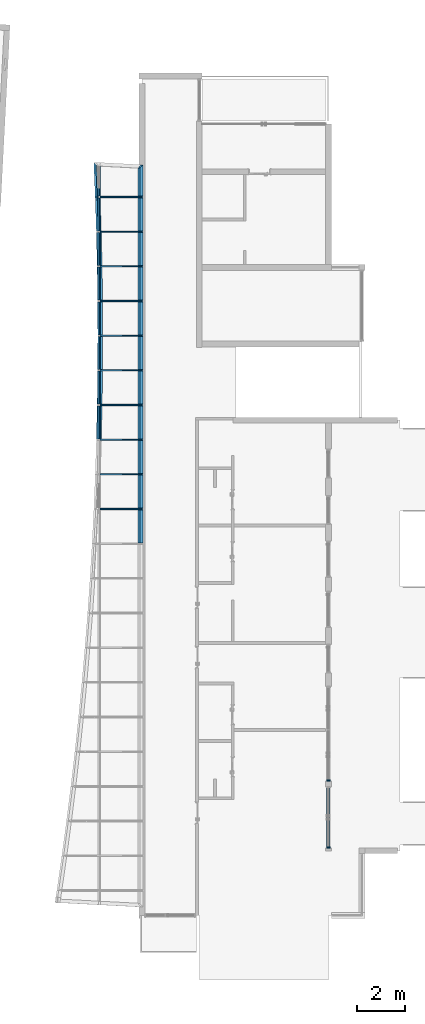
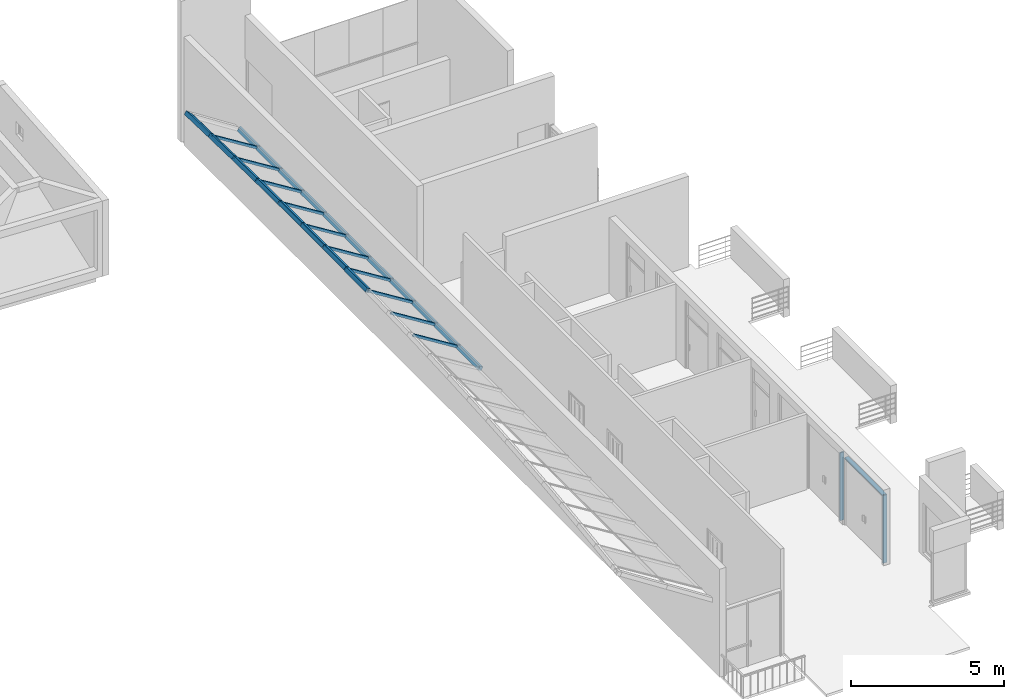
# One storey, part 5 of 33: 40 members, 3 elements without a shape of their own.
"""IFC2X3 building model written with IfcOpenShell, lengths in millimetres."""

import ifcopenshell
import ifcopenshell.guid

model = None  # the IFC model being written
_history = None  # IfcOwnerHistory: only IFC2X3 demands one
_inside = {}  # id of a spatial element -> (the spatial element, [elements in it])
_under = {}  # id of a project, library or spatial element -> (it, [spatial elements below it])
_declared = {}  # id of a project -> (the project, [libraries it declares])
_typed = {}  # id of a type object -> (the type object, [elements of that type])
_made_of = {}  # id of a material, layer set ... -> (it, [elements and type objects made of it])


def new_model(schema):
    """Start an empty IFC model of exactly this schema.

    Asked for "IFC4X3", IfcOpenShell would pick the latest addendum, in which some entities
    have other attributes; the version numbers below select the first issue.
    IFC2X3 requires an IfcOwnerHistory on every rooted entity: one is made here for all.
    """
    global model, _history
    if schema == "IFC4X3":
        model = ifcopenshell.file(schema_version=(4, 3, 0, 0))
    else:
        model = ifcopenshell.file(schema=schema)
    _inside.clear()
    _under.clear()
    _declared.clear()
    _typed.clear()
    _made_of.clear()
    _history = None
    if model.schema == "IFC2X3":
        org = make("IfcOrganization", Name="unknown")
        user = make(
            "IfcPersonAndOrganization",
            ThePerson=make("IfcPerson", FamilyName="unknown"),
            TheOrganization=org,
        )
        app = make(
            "IfcApplication",
            ApplicationDeveloper=org,
            Version="unknown",
            ApplicationFullName="unknown",
            ApplicationIdentifier="unknown",
        )
        _history = make(
            "IfcOwnerHistory",
            OwningUser=user,
            OwningApplication=app,
            ChangeAction="ADDED",
            CreationDate=0,
        )
    return model


def make(cls, **values):
    """One entity of the class cls with the attributes given. An attribute that is None is left unset."""
    return model.create_entity(
        cls, **{name: value for name, value in values.items() if value is not None}
    )


def entity(cls, *values):
    """Any entity or typed value of the class cls, its attributes in the order of the schema. None: left unset."""
    e = model.create_entity(cls)
    for i, value in enumerate(values):
        if value is not None:
            e[i] = value
    return e


def rooted(cls, **values):
    """An entity with a GlobalId (a new one), such as an element, a storey or a relation."""
    return make(cls, GlobalId=ifcopenshell.guid.new(), OwnerHistory=_history, **values)


def si_unit(unit_type, name, prefix=None):
    """IfcSIUnit, for example si_unit("LENGTHUNIT", "METRE", prefix="MILLI")."""
    return make("IfcSIUnit", UnitType=unit_type, Prefix=prefix, Name=name)


def converted_unit(unit_type, name, factor, base, dimensions=None, offset=None):
    """IfcConversionBasedUnit, such as the inch: factor (a typed value) times the base unit."""
    return make(
        "IfcConversionBasedUnit"
        if offset is None
        else "IfcConversionBasedUnitWithOffset",
        ConversionOffset=offset,
        Dimensions=None
        if dimensions is None
        else entity("IfcDimensionalExponents", *dimensions),
        UnitType=unit_type,
        Name=name,
        ConversionFactor=make(
            "IfcMeasureWithUnit", ValueComponent=factor, UnitComponent=base
        ),
    )


def derived_unit(unit_type, elements):
    """IfcDerivedUnit: a product of units, each with its exponent."""
    return make(
        "IfcDerivedUnit",
        Elements=[
            make("IfcDerivedUnitElement", Unit=unit, Exponent=power)
            for unit, power in elements
        ],
        UnitType=unit_type,
    )


def assignment(units):
    """IfcUnitAssignment: the units of a project."""
    return None if units is None else make("IfcUnitAssignment", Units=units)


def point(xyz):
    """IfcCartesianPoint."""
    return None if xyz is None else make("IfcCartesianPoint", Coordinates=xyz)


def direction(xyz):
    """IfcDirection."""
    return None if xyz is None else make("IfcDirection", DirectionRatios=xyz)


def frame(location, z_axis=None, x_axis=None):
    """IfcAxis2Placement3D, a coordinate frame: its origin and axes. An axis left out is left unset."""
    return make(
        "IfcAxis2Placement3D",
        Location=point(location),
        Axis=direction(z_axis),
        RefDirection=direction(x_axis),
    )


def frame_2d(location, x_axis=None):
    """IfcAxis2Placement2D, a coordinate frame in the plane: its origin and x axis."""
    return make(
        "IfcAxis2Placement2D", Location=point(location), RefDirection=direction(x_axis)
    )


def origin():
    """The frame at (0, 0, 0) with its axes left unset."""
    return frame((0.0, 0.0, 0.0))


def origin_2d_with_axis():
    """The frame at (0, 0) in the plane with the x axis (1, 0) written out."""
    return frame_2d((0.0, 0.0), x_axis=(1.0, 0.0))


def place(relative_to, where):
    """IfcLocalPlacement: puts the frame where relative to a parent placement (None: the world)."""
    return make(
        "IfcLocalPlacement", PlacementRelTo=relative_to, RelativePlacement=where
    )


def context(
    kind, dimensions, precision=None, world=None, true_north=None, identifier=None
):
    """IfcGeometricRepresentationContext, for example the 3D "Model" context."""
    return make(
        "IfcGeometricRepresentationContext",
        ContextIdentifier=identifier,
        ContextType=kind,
        CoordinateSpaceDimension=dimensions,
        Precision=precision,
        WorldCoordinateSystem=world,
        TrueNorth=true_north,
    )


def subcontext(parent, identifier, kind, view, scale=None):
    """IfcGeometricRepresentationSubContext, for example "Body" below "Model"."""
    return make(
        "IfcGeometricRepresentationSubContext",
        ContextIdentifier=identifier,
        ContextType=kind,
        ParentContext=parent,
        TargetScale=scale,
        TargetView=view,
    )


def project(units=None, contexts=None):
    """IfcProject with its units and contexts."""
    return rooted(
        "IfcProject",
        Name="project",
        RepresentationContexts=contexts,
        UnitsInContext=assignment(units),
    )


def spatial(cls, under=None, at=None, **own):
    """A site, building, storey or space (cls), placed at a placement, below another one or the project."""
    s = rooted(cls, ObjectPlacement=at, **own)
    if under is not None:
        _under.setdefault(under.id(), (under, []))[1].append(s)
    return s


def polyline(points):
    """IfcPolyline through the points."""
    return make("IfcPolyline", Points=[point(p) for p in points])


def profile(cls, at=None, kind="AREA", **sizes):
    """A parametric profile (cls). Its sizes go by their IFC names, for example OverallWidth=200.0."""
    return make(cls, ProfileType=kind, Position=at, **sizes)


def rectangle(**sizes):
    """IfcRectangleProfileDef."""
    return profile("IfcRectangleProfileDef", **sizes)


def extrude(swept, where, along, depth):
    """IfcExtrudedAreaSolid: the profile swept, set in the frame where, extruded along a direction by depth."""
    return make(
        "IfcExtrudedAreaSolid",
        SweptArea=swept,
        Position=where,
        ExtrudedDirection=direction(along),
        Depth=depth,
    )


def clip(a, b, op="DIFFERENCE"):
    """IfcBooleanClippingResult: the solid a cut by the half space b."""
    return make(
        "IfcBooleanClippingResult", Operator=op, FirstOperand=a, SecondOperand=b
    )


def halfspace(plane, agree):
    """IfcHalfSpaceSolid: all space on one side of the plane z = 0 of the frame plane."""
    return make(
        "IfcHalfSpaceSolid",
        BaseSurface=make("IfcPlane", Position=plane),
        AgreementFlag=agree,
    )


def bounded_halfspace(plane, agree, where, boundary):
    """IfcPolygonalBoundedHalfSpace: a half space limited to a polygon's prism."""
    return make(
        "IfcPolygonalBoundedHalfSpace",
        BaseSurface=make("IfcPlane", Position=plane),
        AgreementFlag=agree,
        Position=where,
        PolygonalBoundary=boundary,
    )


def shape(context_of_items, identifier, shape_type, items):
    """IfcShapeRepresentation: the items that make up one representation, for example the "Body"."""
    return make(
        "IfcShapeRepresentation",
        ContextOfItems=context_of_items,
        RepresentationIdentifier=identifier,
        RepresentationType=shape_type,
        Items=items,
    )


def source(mapping_origin, context_of_items, identifier, shape_type, items):
    """IfcRepresentationMap: a shape defined once, which mapped items show again and again."""
    return make(
        "IfcRepresentationMap",
        MappingOrigin=mapping_origin,
        MappedRepresentation=shape(context_of_items, identifier, shape_type, items),
    )


def transform(
    local_origin,
    x_axis=None,
    y_axis=None,
    z_axis=None,
    scale=None,
    scale2=None,
    scale3=None,
    uniform=True,
):
    """IfcCartesianTransformationOperator3D, or its non-uniform kind. x_axis, y_axis, z_axis: its Axis1, 2, 3."""
    if uniform:
        return make(
            "IfcCartesianTransformationOperator3D",
            Axis1=direction(x_axis),
            Axis2=direction(y_axis),
            LocalOrigin=point(local_origin),
            Scale=scale,
            Axis3=direction(z_axis),
        )
    return make(
        "IfcCartesianTransformationOperator3DnonUniform",
        Axis1=direction(x_axis),
        Axis2=direction(y_axis),
        LocalOrigin=point(local_origin),
        Scale=scale,
        Axis3=direction(z_axis),
        Scale2=scale2,
        Scale3=scale3,
    )


def mapped(mapping_source, mapping_target):
    """IfcMappedItem: shows the shape of a source again, moved by a transform."""
    return make(
        "IfcMappedItem", MappingSource=mapping_source, MappingTarget=mapping_target
    )


def material(Name=None, Category=None):
    """IfcMaterial."""
    return make("IfcMaterial", Name=Name, Category=Category)


def made_of(thing, what):
    """Note that an element or type object is made of a material, layer set ...; save() writes the relation."""
    if what is not None:
        _made_of.setdefault(what.id(), (what, []))[1].append(thing)
    return thing


def type_object(cls, material=None, **own):
    """A type object (cls), such as IfcWallType, which elements share."""
    return made_of(rooted(cls, **own), material)


def type_shapes(of_type, sources):
    """Give a type object the sources (RepresentationMaps) that its elements show as mapped items."""
    of_type.RepresentationMaps = sources


def element(
    cls,
    number,
    at=None,
    inside=None,
    cuts=None,
    type_object=None,
    material=None,
    context=None,
    identifier="Body",
    shape_type=None,
    held_by="IfcProductDefinitionShape",
    body=None,
    shapes=None,
    **own,
):
    """One element of the class cls, such as IfcWall. Its Tag is "e" and its number.

    at: its placement. inside: the storey or other place that contains it. cuts: it is an
    opening in that element (IfcRelVoidsElement). A single representation is given by context,
    identifier, shape_type and body (its items); several are given by shapes. held_by: the class
    of the entity that holds the representations. save() writes the other relations.
    """
    e = rooted(cls, Tag="e%d" % number, ObjectPlacement=at, **own)
    if body is not None:
        shapes = [shape(context, identifier, shape_type, body)]
    if shapes is not None:
        e.Representation = make(held_by, Representations=shapes)
    if inside is not None:
        _inside.setdefault(inside.id(), (inside, []))[1].append(e)
    if cuts is not None:
        rooted(
            "IfcRelVoidsElement", RelatingBuildingElement=cuts, RelatedOpeningElement=e
        )
    if type_object is not None:
        _typed.setdefault(type_object.id(), (type_object, []))[1].append(e)
    return made_of(e, material)


def aggregate(whole, parts):
    """IfcRelAggregates: a whole, such as a stair, and the parts it consists of."""
    return rooted("IfcRelAggregates", RelatingObject=whole, RelatedObjects=parts)


def save(model, path):
    """Write the relations noted so far, then the file.

    IfcRelAggregates (storeys below a building ...), IfcRelContainedInSpatialStructure (elements
    in a storey), IfcRelDefinesByType, IfcRelAssociatesMaterial and IfcRelDeclares: one each for
    every whole, place, type object, material and project.
    """
    for whole, parts in _under.values():
        aggregate(whole, parts)
    for where, things in _inside.values():
        rooted(
            "IfcRelContainedInSpatialStructure",
            RelatedElements=things,
            RelatingStructure=where,
        )
    for kind, things in _typed.values():
        rooted("IfcRelDefinesByType", RelatedObjects=things, RelatingType=kind)
    for what, things in _made_of.values():
        rooted("IfcRelAssociatesMaterial", RelatedObjects=things, RelatingMaterial=what)
    for by, libraries in _declared.values():
        rooted("IfcRelDeclares", RelatingContext=by, RelatedDefinitions=libraries)
    model.write(path)


model = new_model("IFC2X3")

# Units and contexts
model_context = context("Model", 3, precision=0.01, world=origin(), true_north=direction((6.12303176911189e-17, 1.0)))
body_context = subcontext(model_context, "Body", "Model", "MODEL_VIEW")
ifc_project = project(units=[si_unit("LENGTHUNIT", "METRE", prefix="MILLI"), si_unit("AREAUNIT", "SQUARE_METRE"), si_unit("VOLUMEUNIT", "CUBIC_METRE"), converted_unit("PLANEANGLEUNIT", "DEGREE", entity("IfcRatioMeasure", 0.0174532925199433), si_unit("PLANEANGLEUNIT", "RADIAN"), dimensions=[0, 0, 0, 0, 0, 0, 0]), si_unit("MASSUNIT", "GRAM", prefix="KILO"), derived_unit("MASSDENSITYUNIT", [(si_unit("MASSUNIT", "GRAM", prefix="KILO"), 1), (si_unit("LENGTHUNIT", "METRE"), -3)]), si_unit("TIMEUNIT", "SECOND"), si_unit("FREQUENCYUNIT", "HERTZ"), si_unit("THERMODYNAMICTEMPERATUREUNIT", "DEGREE_CELSIUS"), derived_unit("THERMALTRANSMITTANCEUNIT", [(si_unit("MASSUNIT", "GRAM", prefix="KILO"), 1), (si_unit("THERMODYNAMICTEMPERATUREUNIT", "KELVIN"), -1), (si_unit("TIMEUNIT", "SECOND"), -3)]), derived_unit("VOLUMETRICFLOWRATEUNIT", [(si_unit("LENGTHUNIT", "METRE"), 3), (si_unit("TIMEUNIT", "SECOND"), -1)]), si_unit("ELECTRICCURRENTUNIT", "AMPERE"), si_unit("ELECTRICVOLTAGEUNIT", "VOLT"), si_unit("POWERUNIT", "WATT"), si_unit("FORCEUNIT", "NEWTON", prefix="KILO"), si_unit("ILLUMINANCEUNIT", "LUX"), si_unit("LUMINOUSFLUXUNIT", "LUMEN"), si_unit("LUMINOUSINTENSITYUNIT", "CANDELA"), derived_unit("USERDEFINED", [(si_unit("MASSUNIT", "GRAM", prefix="KILO"), -1), (si_unit("LENGTHUNIT", "METRE"), -2), (si_unit("TIMEUNIT", "SECOND"), 3), (si_unit("LUMINOUSFLUXUNIT", "LUMEN"), 1)]), derived_unit("LINEARVELOCITYUNIT", [(si_unit("LENGTHUNIT", "METRE"), 1), (si_unit("TIMEUNIT", "SECOND"), -1)]), si_unit("PRESSUREUNIT", "PASCAL"), derived_unit("USERDEFINED", [(si_unit("LENGTHUNIT", "METRE"), -2), (si_unit("MASSUNIT", "GRAM", prefix="KILO"), 1), (si_unit("TIMEUNIT", "SECOND"), -2)])], contexts=[model_context])

# Site, building, storey
site_placement = place(None, origin())
site = spatial("IfcSite", under=ifc_project, at=site_placement, Name="表面", CompositionType="ELEMENT")
building_placement = place(site_placement, origin())
building = spatial("IfcBuilding", under=site, at=building_placement, CompositionType="ELEMENT")
storey_placement = place(building_placement, frame((0.0, 0.0, 6000.0)))
storey = spatial("IfcBuildingStorey", under=building, at=storey_placement, Name="3F", CompositionType="ELEMENT", Elevation=6000.00000000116)

# Curtain wall, members
curtain_wall_type_1 = type_object("IfcCurtainWallType", Name="幕墙系统:1450 x 2100mm", PredefinedType="NOTDEFINED")
curtain_wall_1_placement = place(storey_placement, frame((0.0, 0.0, -6000.0)))
curtain_wall_1 = element("IfcCurtainWall", 1, at=curtain_wall_1_placement, inside=storey, type_object=curtain_wall_type_1, Name="幕墙系统:1450 x 2100mm", ObjectType="幕墙系统:1450 x 2100mm")
ifc_material_1 = material(Name="金属 - 铝")
member_type_1 = type_object("IfcMemberType", Name="50 x 100mm", PredefinedType="MEMBER")
shared_shape_1 = source(origin(), body_context, "Body", "SweptSolid", [
    extrude(rectangle(XDim=100.0, YDim=50.0, at=origin_2d_with_axis()), frame((0.0, 0.0, -1400.0), z_axis=(0.0, 0.0, 1.0), x_axis=(0.0, -1.0, 0.0)), (0.0, 0.0, 1.0), 1400.0),
])
type_shapes(member_type_1, [shared_shape_1])
placement_1 = place(building_placement, frame((0.0, 0.0, 9000.0)))
member_1_placement = place(placement_1, frame((-16211.1509145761, 604.102093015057, 826.048296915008), z_axis=(0.0, 1.0, 0.0), x_axis=(-0.848048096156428, 0.0, 0.529919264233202)))
member_1 = element("IfcMember", 2, at=member_1_placement, type_object=member_type_1, material=ifc_material_1, Name="矩形竖梃:50 x 100mm", ObjectType="50 x 100mm", context=body_context, shape_type="MappedRepresentation", body=[
    mapped(shared_shape_1, transform((0.0, 0.0, 0.0), scale=1.0)),
])
member_2_placement = place(placement_1, frame((-16211.1509145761, -845.897906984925, 826.048296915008), z_axis=(0.0, 1.0, 0.0), x_axis=(-0.848048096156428, 0.0, 0.529919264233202)))
member_2 = element("IfcMember", 3, at=member_2_placement, type_object=member_type_1, material=ifc_material_1, Name="矩形竖梃:50 x 100mm", ObjectType="50 x 100mm", context=body_context, shape_type="MappedRepresentation", body=[
    mapped(shared_shape_1, transform((0.0, 0.0, 0.0), scale=1.0)),
])
member_3_placement = place(placement_1, frame((-16211.1509145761, -2295.89790698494, 826.048296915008), z_axis=(0.0, 1.0, 0.0), x_axis=(-0.848048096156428, 0.0, 0.529919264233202)))
member_3 = element("IfcMember", 4, at=member_3_placement, type_object=member_type_1, material=ifc_material_1, Name="矩形竖梃:50 x 100mm", ObjectType="50 x 100mm", context=body_context, shape_type="MappedRepresentation", body=[
    mapped(shared_shape_1, transform((0.0, 0.0, 0.0), scale=1.0)),
])
member_4_placement = place(placement_1, frame((-16211.1509145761, -3745.89790698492, 826.04829691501), z_axis=(0.0, 1.0, 0.0), x_axis=(-0.848048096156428, 0.0, 0.529919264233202)))
member_4 = element("IfcMember", 5, at=member_4_placement, type_object=member_type_1, material=ifc_material_1, Name="矩形竖梃:50 x 100mm", ObjectType="50 x 100mm", context=body_context, shape_type="MappedRepresentation", body=[
    mapped(shared_shape_1, transform((0.0, 0.0, 0.0), scale=1.0)),
])
member_5_placement = place(placement_1, frame((-16211.1509145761, -5195.89790698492, 826.048296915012), z_axis=(0.0, 1.0, 0.0), x_axis=(-0.848048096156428, 0.0, 0.529919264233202)))
member_5 = element("IfcMember", 6, at=member_5_placement, type_object=member_type_1, material=ifc_material_1, Name="矩形竖梃:50 x 100mm", ObjectType="50 x 100mm", context=body_context, shape_type="MappedRepresentation", body=[
    mapped(shared_shape_1, transform((0.0, 0.0, 0.0), scale=1.0)),
])
member_6_placement = place(placement_1, frame((-16211.1509145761, -6645.89790698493, 826.048296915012), z_axis=(0.0, 1.0, 0.0), x_axis=(-0.848048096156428, 0.0, 0.529919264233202)))
member_6 = element("IfcMember", 7, at=member_6_placement, type_object=member_type_1, material=ifc_material_1, Name="矩形竖梃:50 x 100mm", ObjectType="50 x 100mm", context=body_context, shape_type="MappedRepresentation", body=[
    mapped(shared_shape_1, transform((0.0, 0.0, 0.0), scale=1.0)),
])
member_7_placement = place(placement_1, frame((-16211.1509145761, -8095.89790698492, 826.048296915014), z_axis=(0.0, 1.0, 0.0), x_axis=(-0.848048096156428, 0.0, 0.529919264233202)))
member_7 = element("IfcMember", 8, at=member_7_placement, type_object=member_type_1, material=ifc_material_1, Name="矩形竖梃:50 x 100mm", ObjectType="50 x 100mm", context=body_context, shape_type="MappedRepresentation", body=[
    mapped(shared_shape_1, transform((0.0, 0.0, 0.0), scale=1.0)),
])
member_type_2 = type_object("IfcMemberType", Name="50 x 100mm", PredefinedType="MEMBER")
shared_shape_2 = source(origin(), body_context, "Body", "SweptSolid", [
    extrude(rectangle(XDim=100.0, YDim=50.0, at=origin_2d_with_axis()), frame((0.0, 0.0, -2100.0), z_axis=(0.0, 0.0, 1.0), x_axis=(0.0, -1.0, 0.0)), (0.0, 0.0, 1.0), 2100.0),
])
type_shapes(member_type_2, [shared_shape_2])
member_8_placement = place(storey_placement, frame((-16211.1509145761, 629.102093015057, 3826.04829691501), z_axis=(-0.848048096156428, 0.0, 0.529919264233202), x_axis=(0.0, -1.0, 0.0)))
member_8 = element("IfcMember", 9, at=member_8_placement, type_object=member_type_2, material=ifc_material_1, Name="矩形竖梃:50 x 100mm", ObjectType="50 x 100mm", context=body_context, shape_type="MappedRepresentation", body=[
    mapped(shared_shape_2, transform((0.0, 0.0, 0.0), scale=1.0)),
])
member_9_placement = place(storey_placement, frame((-16211.1509145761, -820.897906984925, 3826.04829691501), z_axis=(-0.848048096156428, 0.0, 0.529919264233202), x_axis=(0.0, -1.0, 0.0)))
member_9 = element("IfcMember", 10, at=member_9_placement, type_object=member_type_2, material=ifc_material_1, Name="矩形竖梃:50 x 100mm", ObjectType="50 x 100mm", context=body_context, shape_type="MappedRepresentation", body=[
    mapped(shared_shape_2, transform((0.0, 0.0, 0.0), scale=1.0)),
])
member_10_placement = place(storey_placement, frame((-16211.1509145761, -2270.89790698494, 3826.04829691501), z_axis=(-0.848048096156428, 0.0, 0.529919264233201), x_axis=(0.0, -1.0, 0.0)))
member_10 = element("IfcMember", 11, at=member_10_placement, type_object=member_type_2, material=ifc_material_1, Name="矩形竖梃:50 x 100mm", ObjectType="50 x 100mm", context=body_context, shape_type="MappedRepresentation", body=[
    mapped(shared_shape_2, transform((0.0, 0.0, 0.0), scale=1.0)),
])
member_11_placement = place(storey_placement, frame((-16211.1509145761, -3720.89790698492, 3826.04829691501), z_axis=(-0.848048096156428, 0.0, 0.529919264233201), x_axis=(0.0, -1.0, 0.0)))
member_11 = element("IfcMember", 12, at=member_11_placement, type_object=member_type_2, material=ifc_material_1, Name="矩形竖梃:50 x 100mm", ObjectType="50 x 100mm", context=body_context, shape_type="MappedRepresentation", body=[
    mapped(shared_shape_2, transform((0.0, 0.0, 0.0), scale=1.0)),
])
member_12_placement = place(storey_placement, frame((-16211.1509145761, -5170.89790698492, 3826.04829691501), z_axis=(-0.848048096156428, 0.0, 0.529919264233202), x_axis=(0.0, -1.0, 0.0)))
member_12 = element("IfcMember", 13, at=member_12_placement, type_object=member_type_2, material=ifc_material_1, Name="矩形竖梃:50 x 100mm", ObjectType="50 x 100mm", context=body_context, shape_type="MappedRepresentation", body=[
    mapped(shared_shape_2, transform((0.0, 0.0, 0.0), scale=1.0)),
])
member_13_placement = place(storey_placement, frame((-16211.1509145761, -6620.89790698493, 3826.04829691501), z_axis=(-0.848048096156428, 0.0, 0.529919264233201), x_axis=(0.0, -1.0, 0.0)))
member_13 = element("IfcMember", 14, at=member_13_placement, type_object=member_type_2, material=ifc_material_1, Name="矩形竖梃:50 x 100mm", ObjectType="50 x 100mm", context=body_context, shape_type="MappedRepresentation", body=[
    mapped(shared_shape_2, transform((0.0, 0.0, 0.0), scale=1.0)),
])
member_14_placement = place(storey_placement, frame((-16211.1509145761, -8070.89790698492, 3826.04829691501), z_axis=(-0.848048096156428, 0.0, 0.529919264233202), x_axis=(0.0, -1.0, 0.0)))
member_14 = element("IfcMember", 15, at=member_14_placement, type_object=member_type_2, material=ifc_material_1, Name="矩形竖梃:50 x 100mm", ObjectType="50 x 100mm", context=body_context, shape_type="MappedRepresentation", body=[
    mapped(shared_shape_2, transform((0.0, 0.0, 0.0), scale=1.0)),
])
member_15_placement = place(storey_placement, frame((-16211.1509145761, -9520.89790698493, 3826.04829691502), z_axis=(-0.848048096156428, 0.0, 0.529919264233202), x_axis=(0.0, -1.0, 0.0)))
member_15 = element("IfcMember", 16, at=member_15_placement, type_object=member_type_2, material=ifc_material_1, Name="矩形竖梃:50 x 100mm", ObjectType="50 x 100mm", context=body_context, shape_type="MappedRepresentation", body=[
    mapped(shared_shape_2, transform((0.0, 0.0, 0.0), scale=1.0)),
])
member_16_placement = place(storey_placement, frame((-16211.1509145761, -10970.8979069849, 3826.04829691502), z_axis=(-0.848048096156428, 0.0, 0.529919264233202), x_axis=(0.0, -1.0, 0.0)))
member_16 = element("IfcMember", 17, at=member_16_placement, type_object=member_type_2, material=ifc_material_1, Name="矩形竖梃:50 x 100mm", ObjectType="50 x 100mm", context=body_context, shape_type="MappedRepresentation", body=[
    mapped(shared_shape_2, transform((0.0, 0.0, 0.0), scale=1.0)),
])
member_17_placement = place(storey_placement, frame((-16211.1509145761, -12420.8979069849, 3826.04829691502), z_axis=(-0.848048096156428, 0.0, 0.529919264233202), x_axis=(0.0, -1.0, 0.0)))
member_17 = element("IfcMember", 18, at=member_17_placement, type_object=member_type_2, material=ifc_material_1, Name="矩形竖梃:50 x 100mm", ObjectType="50 x 100mm", context=body_context, shape_type="MappedRepresentation", body=[
    mapped(shared_shape_2, transform((0.0, 0.0, 0.0), scale=1.0)),
])
ifc_material_2 = material(Name="木质 - 木材")
member_type_3 = type_object("IfcMemberType", Name="200 x 150mm", PredefinedType="MEMBER")
shared_shape_3 = source(origin(), body_context, "Body", "SweptSolid", [
    extrude(rectangle(XDim=150.0, YDim=150.0, at=origin_2d_with_axis()), frame((-75.0, 0.0, -1400.0), z_axis=(0.0, 0.0, 1.0), x_axis=(0.0, -1.0, 0.0)), (0.0, 0.0, 1.0), 1400.0),
])
type_shapes(member_type_3, [shared_shape_3])
member_18_placement = place(storey_placement, frame((-14430.2499126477, -795.897906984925, 2713.21784202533), z_axis=(0.0, -1.0, 0.0), x_axis=(0.848048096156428, 0.0, -0.529919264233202)))
member_18 = element("IfcMember", 19, at=member_18_placement, type_object=member_type_3, material=ifc_material_2, Name="矩形竖梃:200 x 150mm", ObjectType="200 x 150mm", context=body_context, shape_type="MappedRepresentation", body=[
    mapped(shared_shape_3, transform((0.0, 0.0, 0.0), scale=1.0)),
])
member_19_placement = place(storey_placement, frame((-14430.2499126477, -2245.89790698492, 2713.21784202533), z_axis=(0.0, -1.0, 0.0), x_axis=(0.848048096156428, 0.0, -0.529919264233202)))
member_19 = element("IfcMember", 20, at=member_19_placement, type_object=member_type_3, material=ifc_material_2, Name="矩形竖梃:200 x 150mm", ObjectType="200 x 150mm", context=body_context, shape_type="MappedRepresentation", body=[
    mapped(shared_shape_3, transform((0.0, 0.0, 0.0), scale=1.0)),
])
member_20_placement = place(storey_placement, frame((-14430.2499126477, -3695.89790698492, 2713.21784202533), z_axis=(0.0, -1.0, 0.0), x_axis=(0.848048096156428, 0.0, -0.529919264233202)))
member_20 = element("IfcMember", 21, at=member_20_placement, type_object=member_type_3, material=ifc_material_2, Name="矩形竖梃:200 x 150mm", ObjectType="200 x 150mm", context=body_context, shape_type="MappedRepresentation", body=[
    mapped(shared_shape_3, transform((0.0, 0.0, 0.0), scale=1.0)),
])
member_21_placement = place(storey_placement, frame((-14430.2499126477, -5145.89790698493, 2713.21784202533), z_axis=(0.0, -1.0, 0.0), x_axis=(0.848048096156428, 0.0, -0.529919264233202)))
member_21 = element("IfcMember", 22, at=member_21_placement, type_object=member_type_3, material=ifc_material_2, Name="矩形竖梃:200 x 150mm", ObjectType="200 x 150mm", context=body_context, shape_type="MappedRepresentation", body=[
    mapped(shared_shape_3, transform((0.0, 0.0, 0.0), scale=1.0)),
])
member_22_placement = place(storey_placement, frame((-14430.2499126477, -6595.89790698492, 2713.21784202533), z_axis=(0.0, -1.0, 0.0), x_axis=(0.848048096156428, 0.0, -0.529919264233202)))
member_22 = element("IfcMember", 23, at=member_22_placement, type_object=member_type_3, material=ifc_material_2, Name="矩形竖梃:200 x 150mm", ObjectType="200 x 150mm", context=body_context, shape_type="MappedRepresentation", body=[
    mapped(shared_shape_3, transform((0.0, 0.0, 0.0), scale=1.0)),
])
member_23_placement = place(storey_placement, frame((-14430.2499126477, -8045.89790698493, 2713.21784202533), z_axis=(0.0, -1.0, 0.0), x_axis=(0.848048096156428, 0.0, -0.529919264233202)))
member_23 = element("IfcMember", 24, at=member_23_placement, type_object=member_type_3, material=ifc_material_2, Name="矩形竖梃:200 x 150mm", ObjectType="200 x 150mm", context=body_context, shape_type="MappedRepresentation", body=[
    mapped(shared_shape_3, transform((0.0, 0.0, 0.0), scale=1.0)),
])
member_24_placement = place(storey_placement, frame((-14430.2499126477, -9495.89790698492, 2713.21784202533), z_axis=(0.0, -1.0, 0.0), x_axis=(0.848048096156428, 0.0, -0.529919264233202)))
member_24 = element("IfcMember", 25, at=member_24_placement, type_object=member_type_3, material=ifc_material_2, Name="矩形竖梃:200 x 150mm", ObjectType="200 x 150mm", context=body_context, shape_type="MappedRepresentation", body=[
    mapped(shared_shape_3, transform((0.0, 0.0, 0.0), scale=1.0)),
])
member_25_placement = place(storey_placement, frame((-14430.2499126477, -10945.8979069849, 2713.21784202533), z_axis=(0.0, -1.0, 0.0), x_axis=(0.848048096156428, 0.0, -0.529919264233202)))
member_25 = element("IfcMember", 26, at=member_25_placement, type_object=member_type_3, material=ifc_material_2, Name="矩形竖梃:200 x 150mm", ObjectType="200 x 150mm", context=body_context, shape_type="MappedRepresentation", body=[
    mapped(shared_shape_3, transform((0.0, 0.0, 0.0), scale=1.0)),
])
member_26_placement = place(storey_placement, frame((-14430.2499126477, -12395.8979069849, 2713.21784202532), z_axis=(0.0, -1.0, 0.0), x_axis=(0.848048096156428, 0.0, -0.529919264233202)))
member_26 = element("IfcMember", 27, at=member_26_placement, type_object=member_type_3, material=ifc_material_2, Name="矩形竖梃:200 x 150mm", ObjectType="200 x 150mm", context=body_context, shape_type="MappedRepresentation", body=[
    mapped(shared_shape_3, transform((0.0, 0.0, 0.0), scale=1.0)),
])
member_27_placement = place(storey_placement, frame((-14430.2499126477, -13845.8979069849, 2713.21784202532), z_axis=(0.0, -1.0, 0.0), x_axis=(0.848048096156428, 0.0, -0.529919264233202)))
member_27 = element("IfcMember", 28, at=member_27_placement, type_object=member_type_3, material=ifc_material_2, Name="矩形竖梃:200 x 150mm", ObjectType="200 x 150mm", context=body_context, shape_type="MappedRepresentation", body=[
    mapped(shared_shape_3, transform((0.0, 0.0, 0.0), scale=1.0)),
])

# Curtain wall, member
curtain_wall_type_2 = type_object("IfcCurtainWallType", Name="幕墙:幕墙 2", PredefinedType="NOTDEFINED")
curtain_wall_2_placement = place(storey_placement, frame((0.0, 0.0, -6000.0)))
curtain_wall_2 = element("IfcCurtainWall", 29, at=curtain_wall_2_placement, inside=storey, type_object=curtain_wall_type_2, Name="幕墙:幕墙 2", ObjectType="幕墙:幕墙 2")
member_type_4 = type_object("IfcMemberType", Name="50 x 150mm", PredefinedType="MEMBER")
shared_shape_4 = source(origin(), body_context, "Body", "SweptSolid", [
    extrude(rectangle(XDim=150.0, YDim=50.0, at=origin_2d_with_axis()), frame((-25.0, 0.0, -2460.0), z_axis=(0.0, 0.0, 1.0), x_axis=(0.0, -1.0, 0.0)), (0.0, 0.0, 1.0), 2459.99999999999),
])
type_shapes(member_type_4, [shared_shape_4])
placement_2 = place(building_placement, frame((0.0, 0.0, 3000.0)))
member_28_placement = place(placement_2, frame((-6630.24991264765, -26546.868426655, 5700.0), z_axis=(0.0, -1.0, 0.0), x_axis=(0.0, 0.0, 1.0)))
member_28 = element("IfcMember", 30, at=member_28_placement, type_object=member_type_4, material=ifc_material_1, Name="矩形竖梃:50 x 150mm", ObjectType="50 x 150mm", context=body_context, shape_type="MappedRepresentation", body=[
    mapped(shared_shape_4, transform((0.0, 0.0, 0.0), scale=1.0)),
])

curtain_wall_3_placement = place(storey_placement, frame((0.0, 0.0, -6000.0)))
curtain_wall_3 = element("IfcCurtainWall", 31, at=curtain_wall_3_placement, inside=storey, type_object=curtain_wall_type_2, Name="幕墙:幕墙 2", ObjectType="幕墙:幕墙 2")
member_type_5 = type_object("IfcMemberType", Name="50 x 150mm", PredefinedType="MEMBER")
shared_shape_5 = source(origin(), body_context, "Body", "SweptSolid", [
    extrude(rectangle(XDim=150.0, YDim=50.0, at=origin_2d_with_axis()), frame((-25.0, 0.0, -2700.0), z_axis=(0.0, 0.0, 1.0), x_axis=(0.0, -1.0, 0.0)), (0.0, 0.0, 1.0), 2700.0),
])
type_shapes(member_type_5, [shared_shape_5])
member_29_placement = place(placement_2, frame((-6630.24991264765, -23796.868426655, 3000.0), z_axis=(0.0, 0.0, -1.0), x_axis=(0.0, -1.0, 0.0)))
member_29 = element("IfcMember", 32, at=member_29_placement, type_object=member_type_5, material=ifc_material_1, Name="矩形竖梃:50 x 150mm", ObjectType="50 x 150mm", context=body_context, shape_type="MappedRepresentation", body=[
    mapped(shared_shape_5, transform((0.0, 0.0, 0.0), scale=1.0)),
])
aggregate(curtain_wall_3, [member_29])

# Member
member_30_placement = place(placement_2, frame((-6630.24991264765, -26596.868426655, 3000.0), z_axis=(0.0, 0.0, -1.0), x_axis=(0.0, -1.0, 0.0)))
member_30 = element("IfcMember", 33, at=member_30_placement, type_object=member_type_5, material=ifc_material_1, Name="矩形竖梃:50 x 150mm", ObjectType="50 x 150mm", context=body_context, shape_type="MappedRepresentation", body=[
    mapped(shared_shape_5, transform((0.0, 0.0, 0.0), scale=1.0)),
])

aggregate(curtain_wall_2, [member_28, member_30])

member_type_6 = type_object("IfcMemberType", Name="200 x 150mm", PredefinedType="MEMBER")
shared_shape_6 = source(origin(), body_context, "Body", "Clipping", [
    clip(clip(extrude(rectangle(XDim=150.0, YDim=150.0, at=frame_2d((-2.8421709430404e-14, 0.0), x_axis=(1.0, 0.0))), frame((-75.0, 0.0, -1452.55226334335), z_axis=(0.0, 0.0, 1.0), x_axis=(0.0, -1.0, 0.0)), (0.0, 0.0, 1.0), 1452.55226334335), halfspace(frame((0.0, 304.8, -1451.73867840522), z_axis=(0.00542381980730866, 0.0, -0.999985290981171), x_axis=(0.999985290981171, 0.0, 0.00542381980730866)), False)), halfspace(frame((0.0, -304.8, 0.0), z_axis=(-0.739332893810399, 0.0, 0.673340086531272), x_axis=(-0.673340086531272, 0.0, -0.739332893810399)), False)),
])
type_shapes(member_type_6, [shared_shape_6])
member_31_placement = place(placement_1, frame((-16403.7697822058, 2079.10209301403, 946.409923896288), z_axis=(-0.0414926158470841, 0.998802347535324, 0.0259274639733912), x_axis=(-0.847032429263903, -0.0489271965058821, 0.529284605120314)))
member_31 = element("IfcMember", 34, at=member_31_placement, type_object=member_type_6, material=ifc_material_2, Name="矩形竖梃:200 x 150mm", ObjectType="200 x 150mm", context=body_context, shape_type="MappedRepresentation", body=[
    mapped(shared_shape_6, transform((0.0, 0.0, 0.0), scale=1.0)),
])

member_type_7 = type_object("IfcMemberType", Name="200 x 150mm", PredefinedType="MEMBER")
shared_shape_7 = source(origin(), body_context, "Body", "Clipping", [
    clip(extrude(rectangle(XDim=150.0, YDim=150.0, at=origin_2d_with_axis()), frame((-75.0, 0.0, -1321.57220626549), z_axis=(0.0, 0.0, 1.0), x_axis=(0.0, -1.0, 0.0)), (0.0, 0.0, 1.0), 1321.57220626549), halfspace(frame((0.0, -304.8, -1321.57220626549), z_axis=(-0.691230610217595, 0.0, -0.722634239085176), x_axis=(-0.722634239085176, 0.0, 0.691230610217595)), False)),
])
type_shapes(member_type_7, [shared_shape_7])
member_32_placement = place(storey_placement, frame((-14430.2499126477, 654.102093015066, 2713.21784202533), z_axis=(0.0, -1.0, 0.0), x_axis=(0.848048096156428, 0.0, -0.529919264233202)))
member_32 = element("IfcMember", 35, at=member_32_placement, type_object=member_type_7, material=ifc_material_2, Name="矩形竖梃:200 x 150mm", ObjectType="200 x 150mm", context=body_context, shape_type="MappedRepresentation", body=[
    mapped(shared_shape_7, transform((0.0, 0.0, 0.0), scale=1.0)),
])

member_type_8 = type_object("IfcMemberType", Name="200 x 150mm", PredefinedType="MEMBER")
shared_shape_8 = source(origin(), body_context, "Body", "Clipping", [
    clip(clip(extrude(rectangle(XDim=150.0, YDim=150.0, at=frame_2d((2.8421709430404e-14, 0.0), x_axis=(1.0, 0.0))), frame((-75.0, 0.0, -1451.86653299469), z_axis=(0.0, 0.0, 1.0), x_axis=(0.0, -1.0, 0.0)), (0.0, 0.0, 1.0), 1452.68011793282), halfspace(frame((0.0, 304.8, -1451.05300138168), z_axis=(0.00542346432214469, 0.0, -0.999985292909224), x_axis=(0.999985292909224, 0.0, 0.00542346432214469)), False)), halfspace(frame((0.0, 304.8, 0.0), z_axis=(0.0054238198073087, 0.0, 0.999985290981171), x_axis=(0.999985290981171, 0.0, -0.0054238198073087)), False)),
])
type_shapes(member_type_8, [shared_shape_8])
member_33_placement = place(placement_1, frame((-16343.5333469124, 629.102093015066, 908.770021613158), z_axis=(-0.0323020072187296, 0.99927431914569, 0.0201845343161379), x_axis=(-0.847432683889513, -0.0380898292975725, 0.529534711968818)))
member_33 = element("IfcMember", 36, at=member_33_placement, type_object=member_type_8, material=ifc_material_2, Name="矩形竖梃:200 x 150mm", ObjectType="200 x 150mm", context=body_context, shape_type="MappedRepresentation", body=[
    mapped(shared_shape_8, transform((0.0, 0.0, 0.0), scale=1.0)),
])

member_type_9 = type_object("IfcMemberType", Name="200 x 150mm", PredefinedType="MEMBER")
shared_shape_9 = source(origin(), body_context, "Body", "Clipping", [
    clip(clip(extrude(rectangle(XDim=150.0, YDim=150.0, at=origin_2d_with_axis()), frame((-75.0, 0.0, -1451.35209961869), z_axis=(0.0, 0.0, 1.0), x_axis=(0.0, -1.0, 0.0)), (0.0, 0.0, 1.0), 1452.16563123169), halfspace(frame((0.0, 304.8, -1450.53860603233), z_axis=(0.00542321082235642, 0.0, -0.999985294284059), x_axis=(0.999985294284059, 0.0, 0.00542321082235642)), False)), halfspace(frame((0.0, 304.8, 0.0), z_axis=(0.00542346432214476, 0.0, 0.999985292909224), x_axis=(0.999985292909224, 0.0, -0.00542346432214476)), False)),
])
type_shapes(member_type_9, [shared_shape_9])
member_34_placement = place(placement_1, frame((-16296.661422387, -820.897906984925, 879.481192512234), z_axis=(-0.023108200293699, 0.999628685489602, 0.0144396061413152), x_axis=(-0.84773320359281, -0.0272486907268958, 0.529722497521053)))
member_34 = element("IfcMember", 37, at=member_34_placement, type_object=member_type_9, material=ifc_material_2, Name="矩形竖梃:200 x 150mm", ObjectType="200 x 150mm", context=body_context, shape_type="MappedRepresentation", body=[
    mapped(shared_shape_9, transform((0.0, 0.0, 0.0), scale=1.0)),
])

member_type_10 = type_object("IfcMemberType", Name="200 x 150mm", PredefinedType="MEMBER")
shared_shape_10 = source(origin(), body_context, "Body", "Clipping", [
    clip(clip(extrude(rectangle(XDim=150.0, YDim=150.0, at=origin_2d_with_axis()), frame((-75.0, 0.0, -1451.00862155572), z_axis=(0.0, 0.0, 1.0), x_axis=(0.0, -1.0, 0.0)), (0.0, 0.0, 1.0), 1451.82211514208), halfspace(frame((0.0, 304.799999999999, -1450.19515081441), z_axis=(0.00542305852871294, 0.0, -0.99998529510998), x_axis=(0.99998529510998, 0.0, 0.00542305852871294)), False)), halfspace(frame((0.0, 304.8, 0.0), z_axis=(0.00542321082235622, 0.0, 0.999985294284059), x_axis=(0.999985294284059, 0.0, -0.00542321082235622)), False)),
])
type_shapes(member_type_10, [shared_shape_10])
member_35_placement = place(placement_1, frame((-16263.142085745, -2270.89790698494, 858.535986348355), z_axis=(-0.0139121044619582, 0.999865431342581, 0.00869324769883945), x_axis=(-0.847933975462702, -0.016404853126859, 0.529847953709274)))
member_35 = element("IfcMember", 38, at=member_35_placement, type_object=member_type_10, material=ifc_material_2, Name="矩形竖梃:200 x 150mm", ObjectType="200 x 150mm", context=body_context, shape_type="MappedRepresentation", body=[
    mapped(shared_shape_10, transform((0.0, 0.0, 0.0), scale=1.0)),
])

member_type_11 = type_object("IfcMemberType", Name="200 x 150mm", PredefinedType="MEMBER")
shared_shape_11 = source(origin(), body_context, "Body", "Clipping", [
    clip(clip(extrude(rectangle(XDim=150.0, YDim=150.0, at=origin_2d_with_axis()), frame((-75.0, 0.0, -1450.83587097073), z_axis=(0.0, 0.0, 1.0), x_axis=(0.0, -1.0, 0.0)), (0.0, 0.0, 1.0), 1451.64934171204), halfspace(frame((0.0, 304.799999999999, -1450.02240796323), z_axis=(0.00542300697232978, 0.0, -0.999985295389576), x_axis=(0.999985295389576, 0.0, 0.00542300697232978)), False)), halfspace(frame((0.0, 304.8, 0.0), z_axis=(0.00542305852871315, 0.0, 0.99998529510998), x_axis=(0.99998529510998, 0.0, -0.00542305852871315)), False)),
])
type_shapes(member_type_11, [shared_shape_11])
member_36_placement = place(placement_1, frame((-16242.9668193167, -3720.89790698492, 845.92908069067), z_axis=(-0.00471463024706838, 0.999984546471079, 0.002946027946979), x_axis=(-0.848034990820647, -0.00555939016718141, 0.529911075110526)))
member_36 = element("IfcMember", 39, at=member_36_placement, type_object=member_type_11, material=ifc_material_2, Name="矩形竖梃:200 x 150mm", ObjectType="200 x 150mm", context=body_context, shape_type="MappedRepresentation", body=[
    mapped(shared_shape_11, transform((0.0, 0.0, 0.0), scale=1.0)),
])

member_type_12 = type_object("IfcMemberType", Name="200 x 150mm", PredefinedType="MEMBER")
shared_shape_12 = source(origin(), body_context, "Body", "Clipping", [
    clip(clip(extrude(rectangle(XDim=150.0, YDim=150.0, at=origin_2d_with_axis()), frame((-75.0, 0.0, -1450.83373336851), z_axis=(0.0, 0.0, 1.0), x_axis=(0.0, -1.0, 0.0)), (0.0, 0.0, 1.0), 1451.64719637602), halfspace(frame((0.0, 304.800000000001, -1450.02026300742), z_axis=(0.00542305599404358, 0.0, -0.999985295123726), x_axis=(0.999985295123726, 0.0, 0.00542305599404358)), False)), halfspace(frame((0.0, 304.8, 0.0), z_axis=(0.00542300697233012, 0.0, 0.999985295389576), x_axis=(0.999985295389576, 0.0, -0.00542300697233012)), False)),
])
type_shapes(member_type_12, [shared_shape_12])
member_37_placement = place(placement_1, frame((-16236.1304998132, -5170.89790698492, 841.657274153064), z_axis=(0.0044833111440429, 0.999986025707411, -0.00280148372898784), x_axis=(-0.848036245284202, 0.00528662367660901, 0.529911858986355)))
member_37 = element("IfcMember", 40, at=member_37_placement, type_object=member_type_12, material=ifc_material_2, Name="矩形竖梃:200 x 150mm", ObjectType="200 x 150mm", context=body_context, shape_type="MappedRepresentation", body=[
    mapped(shared_shape_12, transform((0.0, 0.0, 0.0), scale=1.0)),
])

member_type_13 = type_object("IfcMemberType", Name="200 x 150mm", PredefinedType="MEMBER")
shared_shape_13 = source(origin(), body_context, "Body", "Clipping", [
    clip(clip(extrude(rectangle(XDim=150.0, YDim=150.0, at=origin_2d_with_axis()), frame((-75.0, 0.0, -1451.00220735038), z_axis=(0.0, 0.0, 1.0), x_axis=(0.0, -1.0, 0.0)), (0.0, 0.0, 1.0), 1451.81567771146), halfspace(frame((0.0, 304.8, -1450.18871452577), z_axis=(0.0054232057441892, 0.0, -0.9999852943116), x_axis=(0.9999852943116, 0.0, 0.0054232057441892)), False)), halfspace(frame((0.0, 304.8, 0.0), z_axis=(0.00542305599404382, 0.0, 0.999985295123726), x_axis=(0.999985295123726, 0.0, -0.00542305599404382)), False)),
])
type_shapes(member_type_13, [shared_shape_13])
member_38_placement = place(placement_1, frame((-16242.6313918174, -6620.89790698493, 845.719482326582), z_axis=(0.0136808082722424, 0.999869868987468, -0.00854871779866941), x_axis=(-0.847937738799, 0.0161321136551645, 0.529850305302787)))
member_38 = element("IfcMember", 41, at=member_38_placement, type_object=member_type_13, material=ifc_material_2, Name="矩形竖梃:200 x 150mm", ObjectType="200 x 150mm", context=body_context, shape_type="MappedRepresentation", body=[
    mapped(shared_shape_13, transform((0.0, 0.0, 0.0), scale=1.0)),
])

member_type_14 = type_object("IfcMemberType", Name="200 x 150mm", PredefinedType="MEMBER")
shared_shape_14 = source(origin(), body_context, "Body", "Clipping", [
    clip(clip(extrude(rectangle(XDim=150.0, YDim=150.0, at=origin_2d_with_axis()), frame((-75.0, 0.0, -1451.34140461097), z_axis=(0.0, 0.0, 1.0), x_axis=(0.0, -1.0, 0.0)), (0.0, 0.0, 1.0), 1452.15489743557), halfspace(frame((0.0, 304.800000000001, -1450.52787414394), z_axis=(0.00542345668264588, 0.0, -0.999985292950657), x_axis=(0.999985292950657, 0.0, 0.00542345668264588)), False)), halfspace(frame((0.0, 304.8, 0.0), z_axis=(0.00542320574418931, 0.0, 0.9999852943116), x_axis=(0.9999852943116, 0.0, -0.00542320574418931)), False)),
])
type_shapes(member_type_14, [shared_shape_14])
member_39_placement = place(placement_1, frame((-16262.4711455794, -8070.89790698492, 858.116736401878), z_axis=(0.0228769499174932, 0.999636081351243, -0.0142951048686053), x_axis=(-0.847739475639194, 0.0269760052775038, 0.529726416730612)))
member_39 = element("IfcMember", 42, at=member_39_placement, type_object=member_type_14, material=ifc_material_2, Name="矩形竖梃:200 x 150mm", ObjectType="200 x 150mm", context=body_context, shape_type="MappedRepresentation", body=[
    mapped(shared_shape_14, transform((0.0, 0.0, 0.0), scale=1.0)),
])

member_type_15 = type_object("IfcMemberType", Name="50 x 100mm", PredefinedType="MEMBER")
shared_shape_15 = source(origin(), body_context, "Body", "Clipping", [
    clip(clip(extrude(rectangle(XDim=100.0, YDim=50.0, at=origin_2d_with_axis()), frame((0.0, 0.0, -1414.90527289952), z_axis=(0.0, 0.0, 1.0), x_axis=(0.0, -1.0, 0.0)), (0.0, 0.0, 1.0), 1265.86830662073), bounded_halfspace(frame((-2093.33992695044, 75.0, -243.185138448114), z_axis=(-0.0444004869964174, 0.0, 0.999013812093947), x_axis=(0.999013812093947, 0.0, 0.0444004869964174)), False, frame((0.0, 0.0, -1414.90527289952), z_axis=(0.0, 0.0, 1.0), x_axis=(0.0, -1.0, 0.0)), polyline([(-50.0, 6.66007304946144), (-50.0, -25.0), (50.0, -25.0), (50.0, 6.66007304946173), (-50.0, 6.66007304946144)]))), bounded_halfspace(frame((6.66007304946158, 75.0, -149.852071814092), z_axis=(-0.0444004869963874, 0.0, 0.999013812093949), x_axis=(0.999013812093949, 0.0, 0.0444004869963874)), False, frame((0.0, 0.0, -1414.90527289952), z_axis=(0.0, 0.0, 1.0), x_axis=(0.0, -1.0, 0.0)), polyline([(-50.0, 25.0), (-50.0, 6.66007304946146), (50.0, 6.66007304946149), (50.0, 25.0), (-50.0, 25.0)]))),
])
type_shapes(member_type_15, [shared_shape_15])
member_40_placement = place(placement_1, frame((-16211.1509145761, 2069.00736591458, 826.048296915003), z_axis=(0.0, 1.0, 0.0), x_axis=(-0.848048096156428, 0.0, 0.529919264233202)))
member_40 = element("IfcMember", 43, at=member_40_placement, type_object=member_type_15, material=ifc_material_1, Name="矩形竖梃:50 x 100mm", ObjectType="50 x 100mm", context=body_context, shape_type="MappedRepresentation", body=[
    mapped(shared_shape_15, transform((0.0, 0.0, 0.0), scale=1.0)),
])

aggregate(curtain_wall_1, [member_31, member_32, member_18, member_19, member_20, member_21, member_22, member_23, member_24, member_25, member_26, member_27, member_33, member_34, member_35, member_36, member_37, member_38, member_39, member_40, member_1, member_2, member_3, member_4, member_5, member_6, member_7, member_8, member_9, member_10, member_11, member_12, member_13, member_14, member_15, member_16, member_17])

save(model, "model.ifc")
